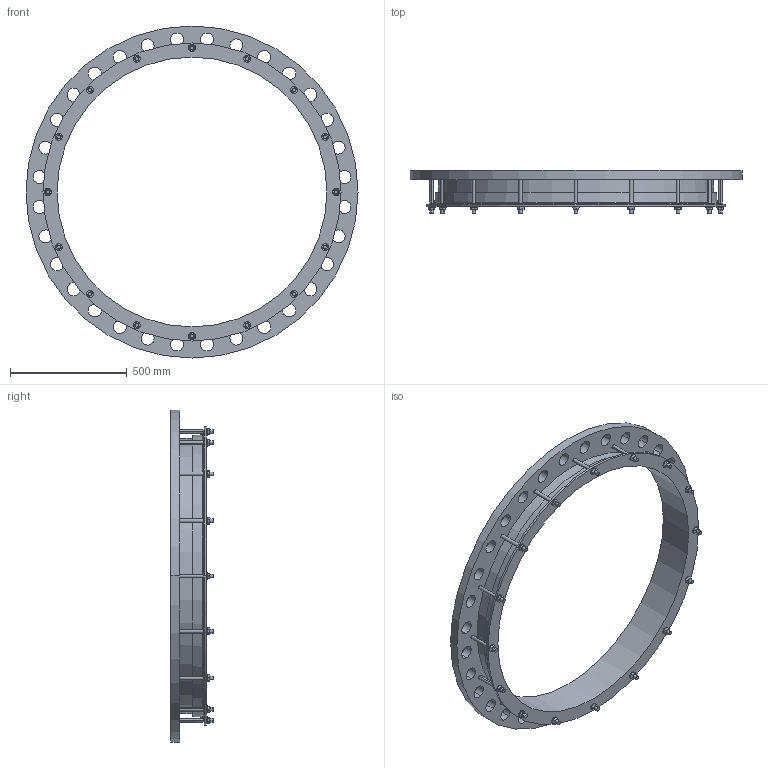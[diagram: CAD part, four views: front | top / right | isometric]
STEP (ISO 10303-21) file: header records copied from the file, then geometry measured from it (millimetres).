
FILE_DESCRIPTION((''),'2;1');
FILE_NAME('1152X1100PN25','2019-04-04T',('mfairey'),('Glynwed Pipe Systems'),'CREO PARAMETRIC BY PTC INC, 2016130','CREO PARAMETRIC BY PTC INC, 2016130','');
FILE_SCHEMA(('CONFIG_CONTROL_DESIGN'));
Length unit declared in the file: millimetre
Products named in the file (1): 1152X1100PN25
Bounding box: 1420 x 182 x 1420 mm (x, y, z)
Volume: 27399139.1 mm3; surface area: 2746254.9 mm2
Topology: 1 solids, 1 shells, 322 faces, 854 edges, 568 vertices
Faces by surface type: cylinder 168, plane 148, cone 4, torus 2
Entity records: 11414 total; most frequent: CARTESIAN_POINT 2968, DIRECTION 1756, ORIENTED_EDGE 1708, EDGE_CURVE 854, AXIS2_PLACEMENT_3D 648, VERTEX_POINT 568, VECTOR 460, LINE 460
